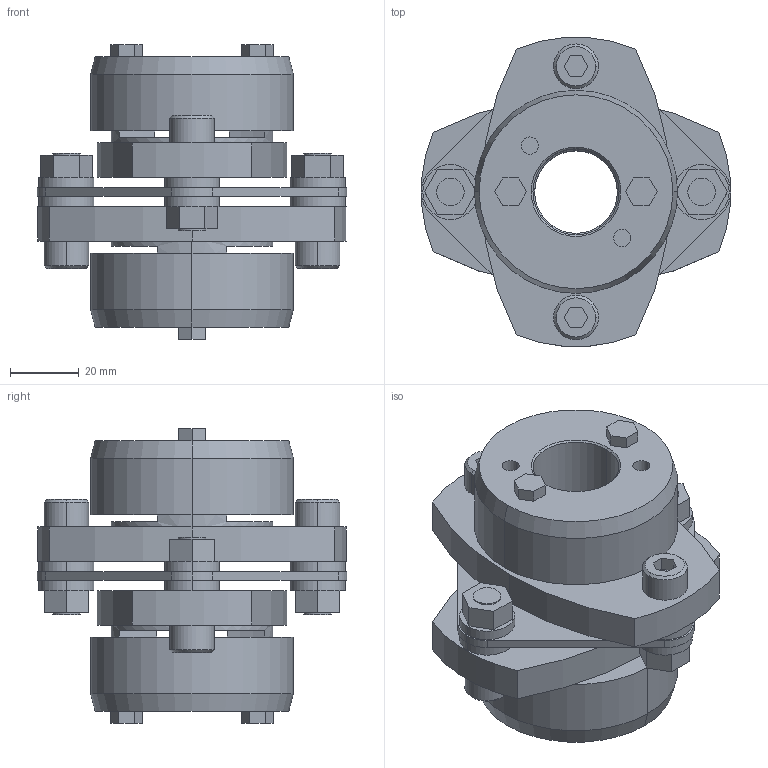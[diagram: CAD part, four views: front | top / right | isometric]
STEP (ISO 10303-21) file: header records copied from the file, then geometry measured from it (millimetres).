
FILE_DESCRIPTION((''),'2;1');
FILE_NAME('LCS-90T7-24×25.stp','2015-11-01T20:18:04',(''),(''),'AutoCAD STEP 2000i','AutoCAD 2000i',', , ');
FILE_SCHEMA(('CONFIG_CONTROL_DESIGN'));
Length unit declared in the file: millimetre
Products named in the file (9): LCS-90T7-25×25; 忣兜1; LC90T7-T025-1; LC90T7-T025; LC90T7-T019-1; LC90T7-T019; LC90-B019-1; LC90-B019; LCS90-ITA
Assembly tree (8 placements, depth 2):
  LCS-90T7-25×25
    忣兜1
    LC90T7-T025-1
    LC90T7-T025
    LC90T7-T019-1
    LC90T7-T019
    LC90-B019-1
    LC90-B019
    LCS90-ITA
Bounding box: 90 x 89.94 x 85.5 mm (x, y, z)
Volume: 197227.9 mm3; surface area: 51831.6 mm2
Topology: 1 solids, 1 shells, 218 faces, 532 edges, 348 vertices
Faces by surface type: plane 118, cylinder 80, cone 20
Entity records: 6675 total; most frequent: DIRECTION 1182, CARTESIAN_POINT 1107, ORIENTED_EDGE 1064, EDGE_CURVE 532, AXIS2_PLACEMENT_3D 423, VERTEX_POINT 348, VECTOR 336, LINE 336
